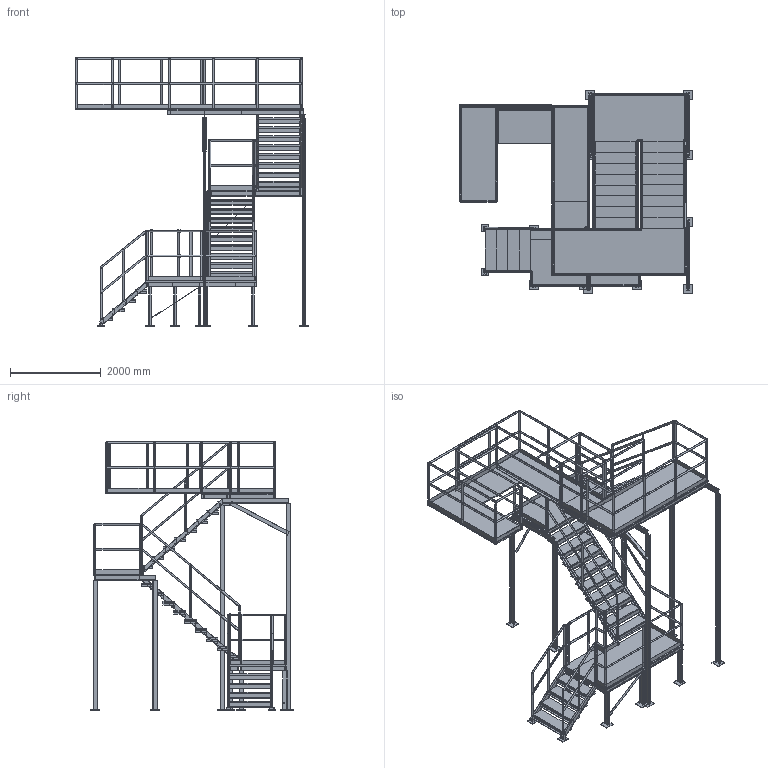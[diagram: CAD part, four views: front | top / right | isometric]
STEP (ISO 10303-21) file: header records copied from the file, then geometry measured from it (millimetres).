
FILE_DESCRIPTION (( 'STEP AP203' ), '1' );
FILE_NAME ('FD02.step', '2026-11-14T02:10:22', ( '' ), ( '' ), 'SwSTEP 2.0', 'SolidWorks 2026', '' );
FILE_SCHEMA (( 'CONFIG_CONTROL_DESIGN' ));
Length unit declared in the file: millimetre
Products named in the file (1): FD02
Bounding box: 5141.2 x 4460 x 5921.2 mm (x, y, z)
Volume: 739277154.6 mm3; surface area: 133392654.7 mm2
Topology: 329 solids, 329 shells, 2594 faces, 5808 edges, 3872 vertices
Faces by surface type: plane 2078, cylinder 516
Entity records: 71445 total; most frequent: CARTESIAN_POINT 12275, DIRECTION 12030, ORIENTED_EDGE 11616, EDGE_CURVE 5808, VECTOR 4776, LINE 4776, VERTEX_POINT 3872, AXIS2_PLACEMENT_3D 3627
